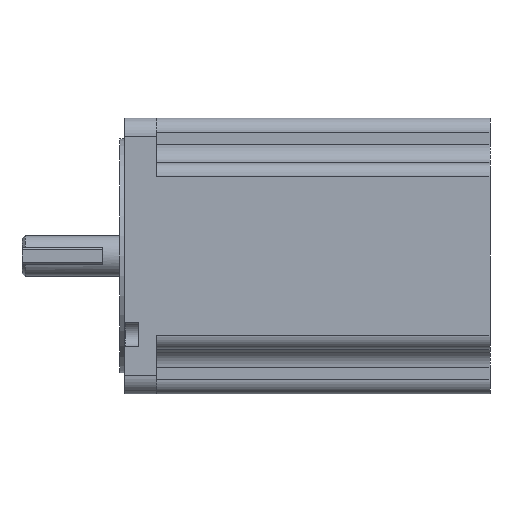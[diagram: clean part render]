
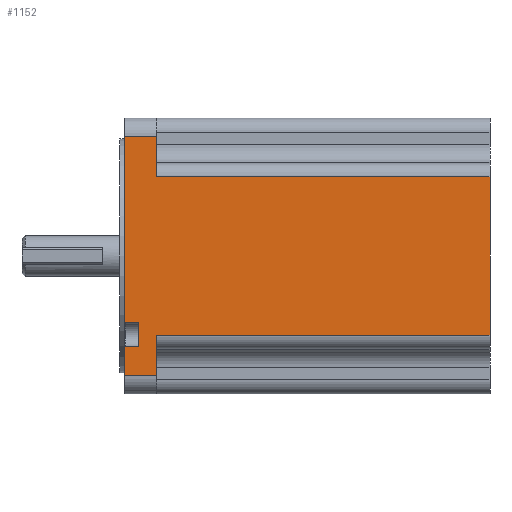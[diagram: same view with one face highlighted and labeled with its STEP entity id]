
A CAD part, left-side view. The second image highlights one B-rep face of the part: STEP entity #1152.
In plain terms, the highlighted planar face has unit normal (-1, 0, 0).
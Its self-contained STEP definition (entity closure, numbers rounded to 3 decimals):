
#49 = DIRECTION ( 'NONE',  ( 0., -0.707, -0.707 ) ) ;
#55 = VECTOR ( 'NONE', #1227, 1000. ) ;
#78 = CARTESIAN_POINT ( 'NONE',  ( -43., 9.8, -20.784 ) ) ;
#92 = VECTOR ( 'NONE', #2885, 1000. ) ;
#140 = VERTEX_POINT ( 'NONE', #879 ) ;
#212 = VECTOR ( 'NONE', #1311, 1000. ) ;
#231 = DIRECTION ( 'NONE',  ( 0., 0., 1. ) ) ;
#242 = ORIENTED_EDGE ( 'NONE', *, *, #1799, .T. ) ;
#255 = CARTESIAN_POINT ( 'NONE',  ( -43., 0., 37.3 ) ) ;
#324 = CARTESIAN_POINT ( 'NONE',  ( -43., 9.8, -28.284 ) ) ;
#378 = LINE ( 'NONE', #3133, #1212 ) ;
#380 = VECTOR ( 'NONE', #2800, 1000. ) ;
#564 = DIRECTION ( 'NONE',  ( 0., 0., -1. ) ) ;
#621 = DIRECTION ( 'NONE',  ( 0., 1., 0. ) ) ;
#633 = LINE ( 'NONE', #1372, #1482 ) ;
#680 = VERTEX_POINT ( 'NONE', #1023 ) ;
#714 = VECTOR ( 'NONE', #2548, 1000. ) ;
#735 = VERTEX_POINT ( 'NONE', #974 ) ;
#743 = CARTESIAN_POINT ( 'NONE',  ( -43., 5.5, -28.284 ) ) ;
#782 = ORIENTED_EDGE ( 'NONE', *, *, #1713, .T. ) ;
#792 = LINE ( 'NONE', #78, #2810 ) ;
#801 = LINE ( 'NONE', #3105, #380 ) ;
#819 = CARTESIAN_POINT ( 'NONE',  ( -43., 9.8, -20.784 ) ) ;
#861 = DIRECTION ( 'NONE',  ( 0., 0.707, -0.707 ) ) ;
#879 = CARTESIAN_POINT ( 'NONE',  ( -43., 0., 24.65 ) ) ;
#890 = CARTESIAN_POINT ( 'NONE',  ( -43., 10., 37.3 ) ) ;
#898 = CARTESIAN_POINT ( 'NONE',  ( -43., 5.5, -28.284 ) ) ;
#903 = LINE ( 'NONE', #255, #212 ) ;
#974 = CARTESIAN_POINT ( 'NONE',  ( -43., 0., -24.65 ) ) ;
#975 = CARTESIAN_POINT ( 'NONE',  ( -43., 0., 37.3 ) ) ;
#1011 = LINE ( 'NONE', #3269, #55 ) ;
#1023 = CARTESIAN_POINT ( 'NONE',  ( -43., 10., -28.484 ) ) ;
#1051 = EDGE_CURVE ( 'NONE', #3346, #2358, #1011, .T. ) ;
#1076 = LINE ( 'NONE', #324, #2732 ) ;
#1096 = ORIENTED_EDGE ( 'NONE', *, *, #1115, .T. ) ;
#1115 = EDGE_CURVE ( 'NONE', #2237, #140, #801, .T. ) ;
#1125 = CARTESIAN_POINT ( 'NONE',  ( -43., 10., 37.3 ) ) ;
#1152 = ADVANCED_FACE ( 'NONE', ( #2304 ), #2055, .F. ) ;
#1212 = VECTOR ( 'NONE', #2848, 1000. ) ;
#1227 = DIRECTION ( 'NONE',  ( 0., 0., 1. ) ) ;
#1311 = DIRECTION ( 'NONE',  ( 0., 0., 1. ) ) ;
#1326 = VECTOR ( 'NONE', #621, 1000. ) ;
#1357 = CARTESIAN_POINT ( 'NONE',  ( -43., 10., 37.3 ) ) ;
#1366 = VECTOR ( 'NONE', #1910, 1000. ) ;
#1372 = CARTESIAN_POINT ( 'NONE',  ( -43., 10., 37.3 ) ) ;
#1384 = EDGE_CURVE ( 'NONE', #2237, #2320, #2538, .T. ) ;
#1422 = VERTEX_POINT ( 'NONE', #2815 ) ;
#1447 = CARTESIAN_POINT ( 'NONE',  ( -43., 10., -37.3 ) ) ;
#1482 = VECTOR ( 'NONE', #1631, 1000. ) ;
#1483 = VECTOR ( 'NONE', #2003, 1000. ) ;
#1523 = LINE ( 'NONE', #1125, #1366 ) ;
#1541 = VERTEX_POINT ( 'NONE', #890 ) ;
#1548 = EDGE_CURVE ( 'NONE', #1591, #680, #633, .T. ) ;
#1588 = CARTESIAN_POINT ( 'NONE',  ( -43., 9.8, -28.284 ) ) ;
#1591 = VERTEX_POINT ( 'NONE', #1447 ) ;
#1631 = DIRECTION ( 'NONE',  ( 0., 0., 1. ) ) ;
#1648 = ORIENTED_EDGE ( 'NONE', *, *, #1384, .F. ) ;
#1689 = DIRECTION ( 'NONE',  ( 0., 1., 0. ) ) ;
#1713 = EDGE_CURVE ( 'NONE', #3346, #3215, #3025, .T. ) ;
#1714 = VECTOR ( 'NONE', #231, 1000. ) ;
#1729 = CARTESIAN_POINT ( 'NONE',  ( -43., 10., -37.3 ) ) ;
#1799 = EDGE_CURVE ( 'NONE', #140, #2964, #1975, .T. ) ;
#1800 = LINE ( 'NONE', #1920, #1326 ) ;
#1829 = CARTESIAN_POINT ( 'NONE',  ( -43., 0., -37.3 ) ) ;
#1835 = CARTESIAN_POINT ( 'NONE',  ( -43., -104., 24.65 ) ) ;
#1875 = CARTESIAN_POINT ( 'NONE',  ( -43., -104., 24.65 ) ) ;
#1910 = DIRECTION ( 'NONE',  ( 0., -1., 0. ) ) ;
#1920 = CARTESIAN_POINT ( 'NONE',  ( -43., 5.5, -20.784 ) ) ;
#1932 = ORIENTED_EDGE ( 'NONE', *, *, #2775, .F. ) ;
#1933 = VECTOR ( 'NONE', #1689, 1000. ) ;
#1975 = LINE ( 'NONE', #975, #714 ) ;
#1993 = ORIENTED_EDGE ( 'NONE', *, *, #2918, .T. ) ;
#2003 = DIRECTION ( 'NONE',  ( 0., -1., 0. ) ) ;
#2055 = PLANE ( 'NONE',  #2360 ) ;
#2066 = CARTESIAN_POINT ( 'NONE',  ( -43., -104., -24.65 ) ) ;
#2088 = VERTEX_POINT ( 'NONE', #1829 ) ;
#2091 = EDGE_CURVE ( 'NONE', #2320, #735, #378, .T. ) ;
#2181 = ORIENTED_EDGE ( 'NONE', *, *, #3251, .T. ) ;
#2225 = EDGE_CURVE ( 'NONE', #1591, #2088, #3108, .T. ) ;
#2237 = VERTEX_POINT ( 'NONE', #1875 ) ;
#2304 = FACE_OUTER_BOUND ( 'NONE', #2639, .T. ) ;
#2320 = VERTEX_POINT ( 'NONE', #2066 ) ;
#2358 = VERTEX_POINT ( 'NONE', #3118 ) ;
#2360 = AXIS2_PLACEMENT_3D ( 'NONE', #1357, #2868, #564 ) ;
#2392 = ORIENTED_EDGE ( 'NONE', *, *, #1548, .F. ) ;
#2412 = EDGE_CURVE ( 'NONE', #1541, #2964, #1523, .T. ) ;
#2428 = ORIENTED_EDGE ( 'NONE', *, *, #2091, .F. ) ;
#2434 = ORIENTED_EDGE ( 'NONE', *, *, #3282, .T. ) ;
#2446 = CARTESIAN_POINT ( 'NONE',  ( -43., 0., 37.3 ) ) ;
#2493 = EDGE_CURVE ( 'NONE', #2358, #2520, #1800, .T. ) ;
#2520 = VERTEX_POINT ( 'NONE', #819 ) ;
#2538 = LINE ( 'NONE', #1835, #92 ) ;
#2548 = DIRECTION ( 'NONE',  ( 0., 0., 1. ) ) ;
#2639 = EDGE_LOOP ( 'NONE', ( #1932, #2181, #3083, #3123, #782, #2434, #2392, #2748, #1993, #2428, #1648, #1096, #242, #2860 ) ) ;
#2732 = VECTOR ( 'NONE', #861, 1000. ) ;
#2748 = ORIENTED_EDGE ( 'NONE', *, *, #2225, .T. ) ;
#2775 = EDGE_CURVE ( 'NONE', #1422, #1541, #2898, .T. ) ;
#2800 = DIRECTION ( 'NONE',  ( 0., 1., 0. ) ) ;
#2810 = VECTOR ( 'NONE', #49, 1000. ) ;
#2815 = CARTESIAN_POINT ( 'NONE',  ( -43., 10., -20.584 ) ) ;
#2848 = DIRECTION ( 'NONE',  ( 0., 1., 0. ) ) ;
#2860 = ORIENTED_EDGE ( 'NONE', *, *, #2412, .F. ) ;
#2868 = DIRECTION ( 'NONE',  ( 1., 0., 0. ) ) ;
#2885 = DIRECTION ( 'NONE',  ( 0., 0., -1. ) ) ;
#2898 = LINE ( 'NONE', #3345, #1714 ) ;
#2918 = EDGE_CURVE ( 'NONE', #2088, #735, #903, .T. ) ;
#2964 = VERTEX_POINT ( 'NONE', #2446 ) ;
#3025 = LINE ( 'NONE', #898, #1933 ) ;
#3083 = ORIENTED_EDGE ( 'NONE', *, *, #2493, .F. ) ;
#3105 = CARTESIAN_POINT ( 'NONE',  ( -43., -104., 24.65 ) ) ;
#3108 = LINE ( 'NONE', #1729, #1483 ) ;
#3118 = CARTESIAN_POINT ( 'NONE',  ( -43., 5.5, -20.784 ) ) ;
#3123 = ORIENTED_EDGE ( 'NONE', *, *, #1051, .F. ) ;
#3133 = CARTESIAN_POINT ( 'NONE',  ( -43., -104., -24.65 ) ) ;
#3215 = VERTEX_POINT ( 'NONE', #1588 ) ;
#3251 = EDGE_CURVE ( 'NONE', #1422, #2520, #792, .T. ) ;
#3269 = CARTESIAN_POINT ( 'NONE',  ( -43., 5.5, -20.784 ) ) ;
#3282 = EDGE_CURVE ( 'NONE', #3215, #680, #1076, .T. ) ;
#3345 = CARTESIAN_POINT ( 'NONE',  ( -43., 10., 37.3 ) ) ;
#3346 = VERTEX_POINT ( 'NONE', #743 ) ;
